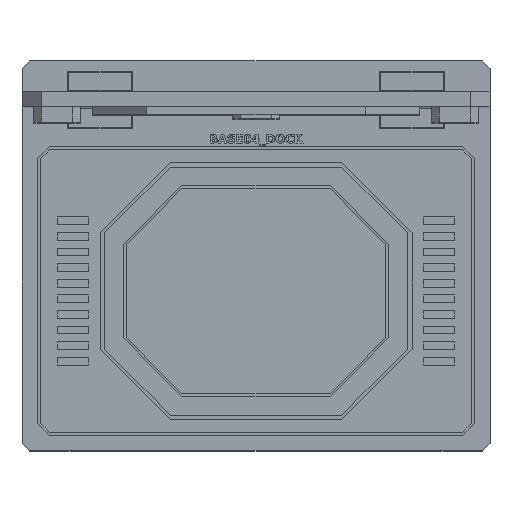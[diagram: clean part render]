
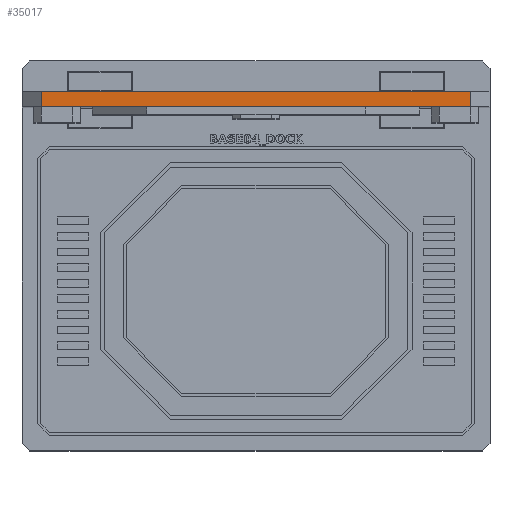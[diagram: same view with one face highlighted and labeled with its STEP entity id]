
A CAD part, top view. The second image highlights one B-rep face of the part: STEP entity #35017.
In plain terms, the highlighted planar face has unit normal (0, 0, 1).
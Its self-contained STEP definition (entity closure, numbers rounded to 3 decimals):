
#31447 = PLANE('',#31448);
#31448 = AXIS2_PLACEMENT_3D('',#31449,#31450,#31451);
#31449 = CARTESIAN_POINT('',(60.,88.,93.));
#31450 = DIRECTION('',(0.,-1.,0.));
#31451 = DIRECTION('',(1.,0.,0.));
#31501 = PLANE('',#31502);
#31502 = AXIS2_PLACEMENT_3D('',#31503,#31504,#31505);
#31503 = CARTESIAN_POINT('',(60.,92.,93.));
#31504 = DIRECTION('',(0.,-1.,0.));
#31505 = DIRECTION('',(1.,0.,0.));
#31694 = VERTEX_POINT('',#31695);
#31695 = CARTESIAN_POINT('',(115.,92.,178.));
#31709 = PLANE('',#31710);
#31710 = AXIS2_PLACEMENT_3D('',#31711,#31712,#31713);
#31711 = CARTESIAN_POINT('',(120.,92.,173.));
#31712 = DIRECTION('',(-0.707,0.,
    -0.707));
#31713 = DIRECTION('',(-0.707,0.,0.707
    ));
#31721 = EDGE_CURVE('',#31694,#31722,#31724,.T.);
#31722 = VERTEX_POINT('',#31723);
#31723 = CARTESIAN_POINT('',(5.,92.,178.));
#31724 = SURFACE_CURVE('',#31725,(#31729,#31736),.PCURVE_S1.);
#31725 = LINE('',#31726,#31727);
#31726 = CARTESIAN_POINT('',(115.,92.,178.));
#31727 = VECTOR('',#31728,1.);
#31728 = DIRECTION('',(-1.,0.,0.));
#31729 = PCURVE('',#31501,#31730);
#31730 = DEFINITIONAL_REPRESENTATION('',(#31731),#31735);
#31731 = LINE('',#31732,#31733);
#31732 = CARTESIAN_POINT('',(55.,85.));
#31733 = VECTOR('',#31734,1.);
#31734 = DIRECTION('',(-1.,0.));
#31735 = ( GEOMETRIC_REPRESENTATION_CONTEXT(2) 
PARAMETRIC_REPRESENTATION_CONTEXT() REPRESENTATION_CONTEXT('2D SPACE',''
  ) );
#31736 = PCURVE('',#31737,#31742);
#31737 = PLANE('',#31738);
#31738 = AXIS2_PLACEMENT_3D('',#31739,#31740,#31741);
#31739 = CARTESIAN_POINT('',(115.,92.,178.));
#31740 = DIRECTION('',(0.,0.,-1.));
#31741 = DIRECTION('',(-1.,0.,0.));
#31742 = DEFINITIONAL_REPRESENTATION('',(#31743),#31747);
#31743 = LINE('',#31744,#31745);
#31744 = CARTESIAN_POINT('',(0.,0.));
#31745 = VECTOR('',#31746,1.);
#31746 = DIRECTION('',(1.,0.));
#31747 = ( GEOMETRIC_REPRESENTATION_CONTEXT(2) 
PARAMETRIC_REPRESENTATION_CONTEXT() REPRESENTATION_CONTEXT('2D SPACE',''
  ) );
#31765 = PLANE('',#31766);
#31766 = AXIS2_PLACEMENT_3D('',#31767,#31768,#31769);
#31767 = CARTESIAN_POINT('',(5.,92.,178.));
#31768 = DIRECTION('',(0.707,0.,
    -0.707));
#31769 = DIRECTION('',(-0.707,0.,
    -0.707));
#32732 = VERTEX_POINT('',#32733);
#32733 = CARTESIAN_POINT('',(115.,88.,178.));
#32754 = EDGE_CURVE('',#32732,#32755,#32757,.T.);
#32755 = VERTEX_POINT('',#32756);
#32756 = CARTESIAN_POINT('',(5.,88.,178.));
#32757 = SURFACE_CURVE('',#32758,(#32762,#32769),.PCURVE_S1.);
#32758 = LINE('',#32759,#32760);
#32759 = CARTESIAN_POINT('',(115.,88.,178.));
#32760 = VECTOR('',#32761,1.);
#32761 = DIRECTION('',(-1.,0.,0.));
#32762 = PCURVE('',#31447,#32763);
#32763 = DEFINITIONAL_REPRESENTATION('',(#32764),#32768);
#32764 = LINE('',#32765,#32766);
#32765 = CARTESIAN_POINT('',(55.,85.));
#32766 = VECTOR('',#32767,1.);
#32767 = DIRECTION('',(-1.,0.));
#32768 = ( GEOMETRIC_REPRESENTATION_CONTEXT(2) 
PARAMETRIC_REPRESENTATION_CONTEXT() REPRESENTATION_CONTEXT('2D SPACE',''
  ) );
#32769 = PCURVE('',#31737,#32770);
#32770 = DEFINITIONAL_REPRESENTATION('',(#32771),#32775);
#32771 = LINE('',#32772,#32773);
#32772 = CARTESIAN_POINT('',(0.,-4.));
#32773 = VECTOR('',#32774,1.);
#32774 = DIRECTION('',(1.,0.));
#32775 = ( GEOMETRIC_REPRESENTATION_CONTEXT(2) 
PARAMETRIC_REPRESENTATION_CONTEXT() REPRESENTATION_CONTEXT('2D SPACE',''
  ) );
#34967 = EDGE_CURVE('',#31722,#32755,#34968,.T.);
#34968 = SURFACE_CURVE('',#34969,(#34973,#34980),.PCURVE_S1.);
#34969 = LINE('',#34970,#34971);
#34970 = CARTESIAN_POINT('',(5.,92.,178.));
#34971 = VECTOR('',#34972,1.);
#34972 = DIRECTION('',(0.,-1.,0.));
#34973 = PCURVE('',#31765,#34974);
#34974 = DEFINITIONAL_REPRESENTATION('',(#34975),#34979);
#34975 = LINE('',#34976,#34977);
#34976 = CARTESIAN_POINT('',(-0.,0.));
#34977 = VECTOR('',#34978,1.);
#34978 = DIRECTION('',(0.,-1.));
#34979 = ( GEOMETRIC_REPRESENTATION_CONTEXT(2) 
PARAMETRIC_REPRESENTATION_CONTEXT() REPRESENTATION_CONTEXT('2D SPACE',''
  ) );
#34980 = PCURVE('',#31737,#34981);
#34981 = DEFINITIONAL_REPRESENTATION('',(#34982),#34986);
#34982 = LINE('',#34983,#34984);
#34983 = CARTESIAN_POINT('',(110.,0.));
#34984 = VECTOR('',#34985,1.);
#34985 = DIRECTION('',(0.,-1.));
#34986 = ( GEOMETRIC_REPRESENTATION_CONTEXT(2) 
PARAMETRIC_REPRESENTATION_CONTEXT() REPRESENTATION_CONTEXT('2D SPACE',''
  ) );
#34996 = EDGE_CURVE('',#31694,#32732,#34997,.T.);
#34997 = SURFACE_CURVE('',#34998,(#35002,#35009),.PCURVE_S1.);
#34998 = LINE('',#34999,#35000);
#34999 = CARTESIAN_POINT('',(115.,92.,178.));
#35000 = VECTOR('',#35001,1.);
#35001 = DIRECTION('',(0.,-1.,0.));
#35002 = PCURVE('',#31709,#35003);
#35003 = DEFINITIONAL_REPRESENTATION('',(#35004),#35008);
#35004 = LINE('',#35005,#35006);
#35005 = CARTESIAN_POINT('',(7.071,0.));
#35006 = VECTOR('',#35007,1.);
#35007 = DIRECTION('',(0.,-1.));
#35008 = ( GEOMETRIC_REPRESENTATION_CONTEXT(2) 
PARAMETRIC_REPRESENTATION_CONTEXT() REPRESENTATION_CONTEXT('2D SPACE',''
  ) );
#35009 = PCURVE('',#31737,#35010);
#35010 = DEFINITIONAL_REPRESENTATION('',(#35011),#35015);
#35011 = LINE('',#35012,#35013);
#35012 = CARTESIAN_POINT('',(0.,0.));
#35013 = VECTOR('',#35014,1.);
#35014 = DIRECTION('',(0.,-1.));
#35015 = ( GEOMETRIC_REPRESENTATION_CONTEXT(2) 
PARAMETRIC_REPRESENTATION_CONTEXT() REPRESENTATION_CONTEXT('2D SPACE',''
  ) );
#35017 = ADVANCED_FACE('',(#35018),#31737,.F.);
#35018 = FACE_BOUND('',#35019,.F.);
#35019 = EDGE_LOOP('',(#35020,#35021,#35022,#35023));
#35020 = ORIENTED_EDGE('',*,*,#34996,.T.);
#35021 = ORIENTED_EDGE('',*,*,#32754,.T.);
#35022 = ORIENTED_EDGE('',*,*,#34967,.F.);
#35023 = ORIENTED_EDGE('',*,*,#31721,.F.);
